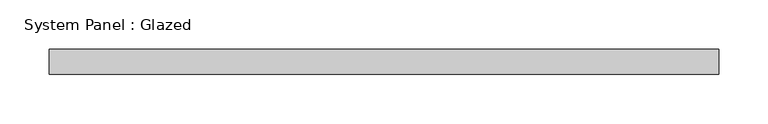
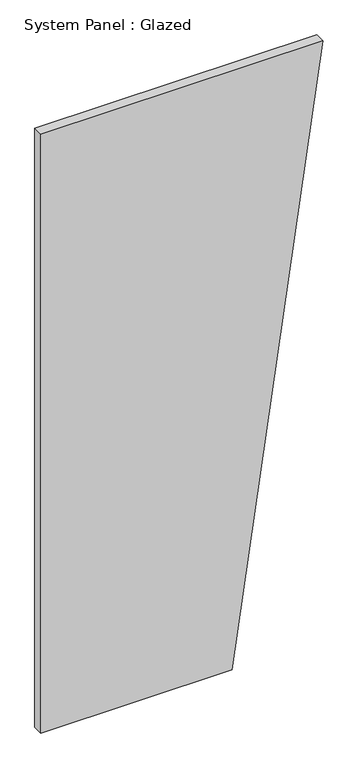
"""IFC4 building model written with IfcOpenShell, lengths in millimetres: plate geometry, System Panel : Glazed."""

from ifc_helpers import new_model, si_unit, frame, origin, place, context, project, spatial, polyline, outline, extrude, source, transform, mapped, element, save


def system_panel_glazed_e2cf116b(model_context):
    return source(origin(), model_context, "Body", "SweptSolid", [
        extrude(outline(polyline([(0.0, -339.8848919), (0.0, 120.6043164), (1524.0, 339.8848919), (1524.0, -339.8848919), (0.0, -339.8848919)])), frame((0.0, 19.05, 0.0), z_axis=(0.0, 1.0, 0.0), x_axis=(0.0, 0.0, 1.0)), (0.0, 0.0, 1.0), 25.4),
    ])


if __name__ == "__main__":
    model = new_model("IFC4")
    model_context = context("Model", 3, world=origin())
    ifc_project = project(units=[si_unit("LENGTHUNIT", "METRE", prefix="MILLI")], contexts=[model_context])
    site = spatial("IfcSite", under=ifc_project)
    building = spatial("IfcBuilding", under=site)
    placement = place(None, origin())
    system_panel_glazed_shape = system_panel_glazed_e2cf116b(model_context)
    element("IfcPlate", 1, ObjectType="System Panel : Glazed", at=placement, inside=building, context=model_context, shape_type="MappedRepresentation", body=[
        mapped(system_panel_glazed_shape, transform((0.0, 0.0, 0.0), x_axis=(1.0, 0.0, 0.0), y_axis=(0.0, 1.0, 0.0), z_axis=(0.0, 0.0, 1.0))),
    ])
    save(model, "model.ifc")
